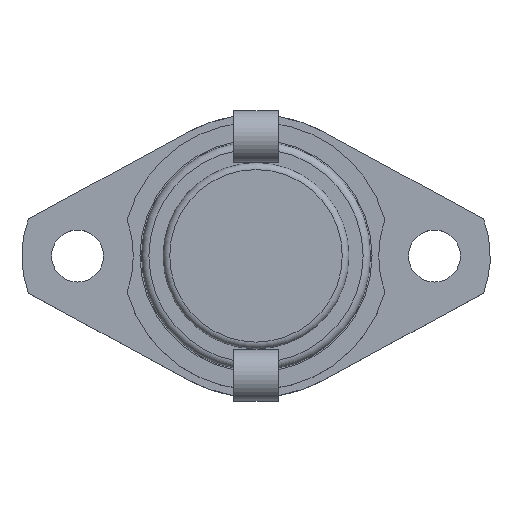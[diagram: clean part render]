
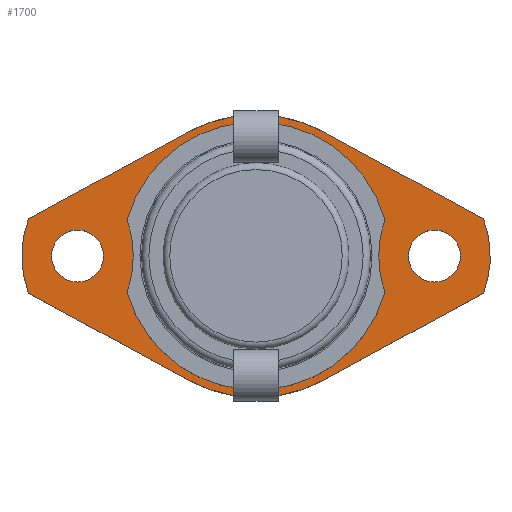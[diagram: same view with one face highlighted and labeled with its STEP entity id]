
A CAD part, top view. The second image highlights one B-rep face of the part: STEP entity #1700.
In plain terms, the highlighted planar face has unit normal (0, 0, 1).
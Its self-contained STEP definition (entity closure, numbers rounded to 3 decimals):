
#672=CARTESIAN_POINT('',(20.5,0.,0.));
#673=VERTEX_POINT('',#672);
#674=CARTESIAN_POINT('',(24.,0.,0.0));
#675=DIRECTION('',(0.0,0.0,-1.0));
#676=DIRECTION('',(1.0,0.0,0.0));
#677=AXIS2_PLACEMENT_3D('',#674,#675,#676);
#678=CIRCLE('',#677,3.5);
#679=EDGE_CURVE('',#673,#673,#678,.T.);
#692=CARTESIAN_POINT('',(-27.5,0.,0.));
#693=VERTEX_POINT('',#692);
#694=CARTESIAN_POINT('',(-24.,0.0,0.0));
#695=DIRECTION('',(0.0,0.0,-1.0));
#696=DIRECTION('',(1.0,0.0,0.0));
#697=AXIS2_PLACEMENT_3D('',#694,#695,#696);
#698=CIRCLE('',#697,3.5);
#699=EDGE_CURVE('',#693,#693,#698,.T.);
#1338=CARTESIAN_POINT('',(-17.321,-4.896,0.0));
#1339=VERTEX_POINT('',#1338);
#1346=CARTESIAN_POINT('',(17.321,-4.896,0.0));
#1347=VERTEX_POINT('',#1346);
#1348=CARTESIAN_POINT('',(0.0,0.0,0.));
#1349=DIRECTION('',(0.0,0.0,-1.0));
#1350=DIRECTION('',(0.962,0.272,0.0));
#1351=AXIS2_PLACEMENT_3D('',#1348,#1349,#1350);
#1352=CIRCLE('',#1351,18.);
#1353=EDGE_CURVE('',#1347,#1339,#1352,.T.);
#1378=CARTESIAN_POINT('',(-17.321,4.896,0.0));
#1379=VERTEX_POINT('',#1378);
#1386=CARTESIAN_POINT('',(-31.5,0.0,0.));
#1387=DIRECTION('',(0.0,0.0,1.0));
#1388=DIRECTION('',(0.945,-0.326,0.0));
#1389=AXIS2_PLACEMENT_3D('',#1386,#1387,#1388);
#1390=CIRCLE('',#1389,15.);
#1391=EDGE_CURVE('',#1339,#1379,#1390,.T.);
#1411=CARTESIAN_POINT('',(17.321,4.896,0.0));
#1412=VERTEX_POINT('',#1411);
#1419=CARTESIAN_POINT('',(0.0,0.0,0.));
#1420=DIRECTION('',(0.0,0.0,-1.0));
#1421=DIRECTION('',(-0.962,-0.272,0.0));
#1422=AXIS2_PLACEMENT_3D('',#1419,#1420,#1421);
#1423=CIRCLE('',#1422,18.);
#1424=EDGE_CURVE('',#1379,#1412,#1423,.T.);
#1443=CARTESIAN_POINT('',(31.5,0.,0.));
#1444=DIRECTION('',(0.0,0.0,1.0));
#1445=DIRECTION('',(-0.945,0.326,0.0));
#1446=AXIS2_PLACEMENT_3D('',#1443,#1444,#1445);
#1447=CIRCLE('',#1446,15.);
#1448=EDGE_CURVE('',#1412,#1347,#1447,.T.);
#1474=CARTESIAN_POINT('',(30.577,-5.0,0.));
#1475=VERTEX_POINT('',#1474);
#1476=CARTESIAN_POINT('',(9.077,-16.692,0.));
#1477=VERTEX_POINT('',#1476);
#1478=CARTESIAN_POINT('',(30.577,-5.0,0.0));
#1479=DIRECTION('',(-0.879,-0.478,0.0));
#1480=VECTOR('',#1479,24.473);
#1481=LINE('',#1478,#1480);
#1482=EDGE_CURVE('',#1475,#1477,#1481,.T.);
#1508=CARTESIAN_POINT('',(-9.077,-16.692,0.));
#1509=VERTEX_POINT('',#1508);
#1510=CARTESIAN_POINT('',(0.0,0.0,0.0));
#1511=DIRECTION('',(0.0,0.0,-1.0));
#1512=DIRECTION('',(0.478,0.879,0.0));
#1513=AXIS2_PLACEMENT_3D('',#1510,#1511,#1512);
#1514=CIRCLE('',#1513,19.0);
#1515=EDGE_CURVE('',#1477,#1509,#1514,.T.);
#1534=CARTESIAN_POINT('',(-30.577,-5.0,0.));
#1535=VERTEX_POINT('',#1534);
#1536=CARTESIAN_POINT('',(-9.077,-16.692,0.0));
#1537=DIRECTION('',(-0.879,0.478,0.0));
#1538=VECTOR('',#1537,24.473);
#1539=LINE('',#1536,#1538);
#1540=EDGE_CURVE('',#1509,#1535,#1539,.T.);
#1558=CARTESIAN_POINT('',(-30.577,5.0,0.));
#1559=VERTEX_POINT('',#1558);
#1560=CARTESIAN_POINT('',(-17.5,0.0,0.0));
#1561=DIRECTION('',(0.0,0.0,-1.0));
#1562=DIRECTION('',(0.934,-0.357,0.0));
#1563=AXIS2_PLACEMENT_3D('',#1560,#1561,#1562);
#1564=CIRCLE('',#1563,14.);
#1565=EDGE_CURVE('',#1535,#1559,#1564,.T.);
#1583=CARTESIAN_POINT('',(-9.077,16.692,0.));
#1584=VERTEX_POINT('',#1583);
#1585=CARTESIAN_POINT('',(-30.577,5.0,0.0));
#1586=DIRECTION('',(0.879,0.478,0.0));
#1587=VECTOR('',#1586,24.473);
#1588=LINE('',#1585,#1587);
#1589=EDGE_CURVE('',#1559,#1584,#1588,.T.);
#1610=CARTESIAN_POINT('',(9.077,16.692,0.));
#1611=VERTEX_POINT('',#1610);
#1612=CARTESIAN_POINT('',(0.0,0.0,0.0));
#1613=DIRECTION('',(0.0,0.0,-1.0));
#1614=DIRECTION('',(-0.478,-0.879,0.0));
#1615=AXIS2_PLACEMENT_3D('',#1612,#1613,#1614);
#1616=CIRCLE('',#1615,19.0);
#1617=EDGE_CURVE('',#1584,#1611,#1616,.T.);
#1636=CARTESIAN_POINT('',(30.577,5.0,0.));
#1637=VERTEX_POINT('',#1636);
#1638=CARTESIAN_POINT('',(9.077,16.692,0.0));
#1639=DIRECTION('',(0.879,-0.478,0.0));
#1640=VECTOR('',#1639,24.473);
#1641=LINE('',#1638,#1640);
#1642=EDGE_CURVE('',#1611,#1637,#1641,.T.);
#1660=CARTESIAN_POINT('',(17.5,0.0,0.0));
#1661=DIRECTION('',(0.0,0.0,-1.0));
#1662=DIRECTION('',(-0.934,0.357,0.0));
#1663=AXIS2_PLACEMENT_3D('',#1660,#1661,#1662);
#1664=CIRCLE('',#1663,14.);
#1665=EDGE_CURVE('',#1637,#1475,#1664,.T.);
#1673=CARTESIAN_POINT('',(0.,0.,0.));
#1674=DIRECTION('',(0.0,0.0,1.0));
#1675=DIRECTION('',(1.0,0.0,0.0));
#1676=AXIS2_PLACEMENT_3D('',#1673,#1674,#1675);
#1677=PLANE('',#1676);
#1678=ORIENTED_EDGE('',*,*,#1482,.F.);
#1679=ORIENTED_EDGE('',*,*,#1665,.F.);
#1680=ORIENTED_EDGE('',*,*,#1642,.F.);
#1681=ORIENTED_EDGE('',*,*,#1617,.F.);
#1682=ORIENTED_EDGE('',*,*,#1589,.F.);
#1683=ORIENTED_EDGE('',*,*,#1565,.F.);
#1684=ORIENTED_EDGE('',*,*,#1540,.F.);
#1685=ORIENTED_EDGE('',*,*,#1515,.F.);
#1686=EDGE_LOOP('',(#1678,#1679,#1680,#1681,#1682,#1683,#1684,#1685));
#1687=FACE_OUTER_BOUND('',#1686,.T.);
#1688=ORIENTED_EDGE('',*,*,#679,.T.);
#1689=EDGE_LOOP('',(#1688));
#1690=FACE_BOUND('',#1689,.T.);
#1691=ORIENTED_EDGE('',*,*,#699,.T.);
#1692=EDGE_LOOP('',(#1691));
#1693=FACE_BOUND('',#1692,.T.);
#1694=ORIENTED_EDGE('',*,*,#1353,.T.);
#1695=ORIENTED_EDGE('',*,*,#1391,.T.);
#1696=ORIENTED_EDGE('',*,*,#1424,.T.);
#1697=ORIENTED_EDGE('',*,*,#1448,.T.);
#1698=EDGE_LOOP('',(#1694,#1695,#1696,#1697));
#1699=FACE_BOUND('',#1698,.T.);
#1700=ADVANCED_FACE('',(#1687,#1690,#1693,#1699),#1677,.T.);
